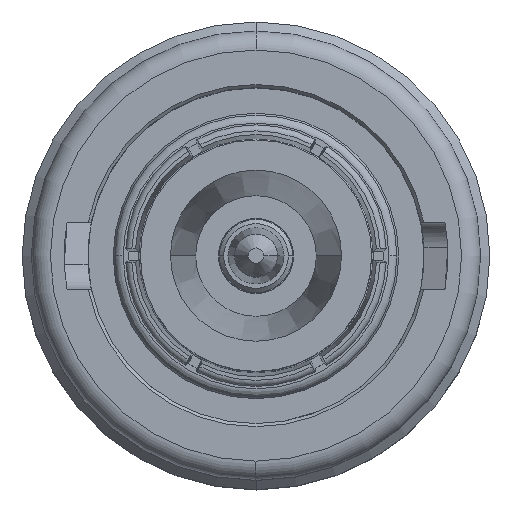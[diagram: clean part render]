
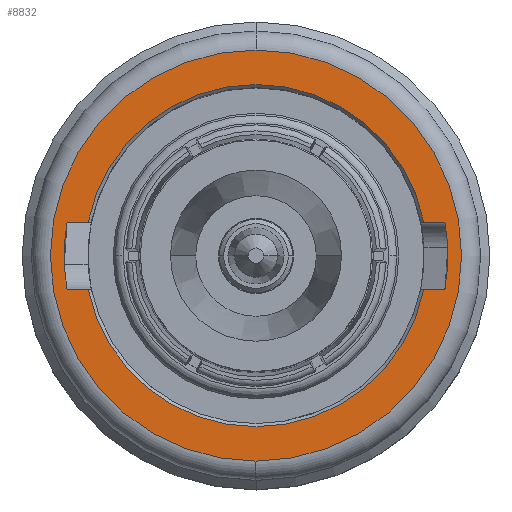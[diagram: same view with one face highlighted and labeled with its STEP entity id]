
A CAD part, top view. The second image highlights one B-rep face of the part: STEP entity #8832.
In plain terms, the highlighted planar face has unit normal (0, 0, 1).
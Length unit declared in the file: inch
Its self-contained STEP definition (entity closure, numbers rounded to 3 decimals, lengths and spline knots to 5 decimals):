
#316=CARTESIAN_POINT('',(-0.27261,-0.0545,0.36));
#323=CARTESIAN_POINT('',(0.,0.,0.36));
#324=DIRECTION('',(0.,0.,1.));
#325=DIRECTION('',(0.,1.,0.));
#326=AXIS2_PLACEMENT_3D('',#323,#324,#325);
#328=CARTESIAN_POINT('',(0.,0.,0.36));
#329=DIRECTION('',(0.,0.,1.));
#330=DIRECTION('',(0.,-1.,0.));
#331=AXIS2_PLACEMENT_3D('',#328,#329,#330);
#333=CARTESIAN_POINT('',(0.,0.,0.36));
#334=DIRECTION('',(0.,0.,1.));
#335=DIRECTION('',(-0.981,-0.196,0.));
#336=AXIS2_PLACEMENT_3D('',#333,#334,#335);
#338=DIRECTION('',(1.,0.,0.));
#339=VECTOR('',#338,0.0345);
#340=CARTESIAN_POINT('',(0.27261,-0.0545,0.36));
#341=LINE('',#340,#339);
#342=CARTESIAN_POINT('',(0.,0.,0.36));
#343=DIRECTION('',(0.,0.,-1.));
#344=DIRECTION('',(0.985,0.175,0.));
#345=AXIS2_PLACEMENT_3D('',#342,#343,#344);
#347=CARTESIAN_POINT('',(0.,0.,0.36));
#348=DIRECTION('',(0.,0.,1.));
#349=DIRECTION('',(0.981,0.196,0.));
#350=AXIS2_PLACEMENT_3D('',#347,#348,#349);
#352=CARTESIAN_POINT('',(0.,0.,0.36));
#353=DIRECTION('',(0.,0.,-1.));
#354=DIRECTION('',(-0.985,-0.175,0.));
#355=AXIS2_PLACEMENT_3D('',#352,#353,#354);
#5841=DIRECTION('',(-1.,0.,0.));
#5842=VECTOR('',#5841,0.0345);
#5843=CARTESIAN_POINT('',(0.3071,0.0545,0.36));
#5844=LINE('',#5843,#5842);
#5862=DIRECTION('',(-1.,0.,0.));
#5863=VECTOR('',#5862,0.0345);
#5864=CARTESIAN_POINT('',(-0.27261,0.0545,0.36));
#5865=LINE('',#5864,#5863);
#5947=DIRECTION('',(-1.,0.,0.));
#5948=VECTOR('',#5947,0.0345);
#5949=CARTESIAN_POINT('',(-0.27261,-0.0545,0.36));
#5950=LINE('',#5949,#5948);
#6912=VERTEX_POINT('',#316);
#6913=CARTESIAN_POINT('',(0.27261,-0.0545,0.36));
#6914=VERTEX_POINT('',#6913);
#6915=CARTESIAN_POINT('',(0.3071,-0.0545,0.36));
#6916=VERTEX_POINT('',#6915);
#6919=CARTESIAN_POINT('',(0.,0.334,0.36));
#6920=CARTESIAN_POINT('',(0.,-0.334,0.36));
#6921=VERTEX_POINT('',#6919);
#6922=VERTEX_POINT('',#6920);
#6923=CARTESIAN_POINT('',(0.3071,0.0545,0.36));
#6924=VERTEX_POINT('',#6923);
#6925=CARTESIAN_POINT('',(0.27261,0.0545,0.36));
#6926=VERTEX_POINT('',#6925);
#6927=CARTESIAN_POINT('',(-0.27261,0.0545,0.36));
#6928=VERTEX_POINT('',#6927);
#6929=CARTESIAN_POINT('',(-0.3071,0.0545,0.36));
#6930=VERTEX_POINT('',#6929);
#6931=CARTESIAN_POINT('',(-0.3071,-0.0545,0.36));
#6932=VERTEX_POINT('',#6931);
#8805=CARTESIAN_POINT('',(0.,0.,0.36));
#8806=DIRECTION('',(0.,0.,1.));
#8807=DIRECTION('',(0.,1.,0.));
#8808=AXIS2_PLACEMENT_3D('',#8805,#8806,#8807);
#8809=PLANE('',#8808);
#8811=ORIENTED_EDGE('',*,*,#8810,.F.);
#8813=ORIENTED_EDGE('',*,*,#8812,.F.);
#8814=EDGE_LOOP('',(#8811,#8813));
#8815=FACE_OUTER_BOUND('',#8814,.F.);
#8816=ORIENTED_EDGE('',*,*,#8781,.T.);
#8817=ORIENTED_EDGE('',*,*,#8794,.T.);
#8819=ORIENTED_EDGE('',*,*,#8818,.F.);
#8821=ORIENTED_EDGE('',*,*,#8820,.T.);
#8823=ORIENTED_EDGE('',*,*,#8822,.T.);
#8825=ORIENTED_EDGE('',*,*,#8824,.T.);
#8827=ORIENTED_EDGE('',*,*,#8826,.F.);
#8829=ORIENTED_EDGE('',*,*,#8828,.F.);
#8830=EDGE_LOOP('',(#8816,#8817,#8819,#8821,#8823,#8825,#8827,#8829));
#8831=FACE_BOUND('',#8830,.F.);
#8832=ADVANCED_FACE('',(#8815,#8831),#8809,.T.);
#327=CIRCLE('',#326,0.334);
#332=CIRCLE('',#331,0.334);
#337=CIRCLE('',#336,0.278);
#346=CIRCLE('',#345,0.3119);
#351=CIRCLE('',#350,0.278);
#356=CIRCLE('',#355,0.3119);
#8781=EDGE_CURVE('',#6912,#6914,#337,.T.);
#8794=EDGE_CURVE('',#6914,#6916,#341,.T.);
#8810=EDGE_CURVE('',#6921,#6922,#327,.T.);
#8812=EDGE_CURVE('',#6922,#6921,#332,.T.);
#8818=EDGE_CURVE('',#6924,#6916,#346,.T.);
#8820=EDGE_CURVE('',#6924,#6926,#5844,.T.);
#8822=EDGE_CURVE('',#6926,#6928,#351,.T.);
#8824=EDGE_CURVE('',#6928,#6930,#5865,.T.);
#8826=EDGE_CURVE('',#6932,#6930,#356,.T.);
#8828=EDGE_CURVE('',#6912,#6932,#5950,.T.);
